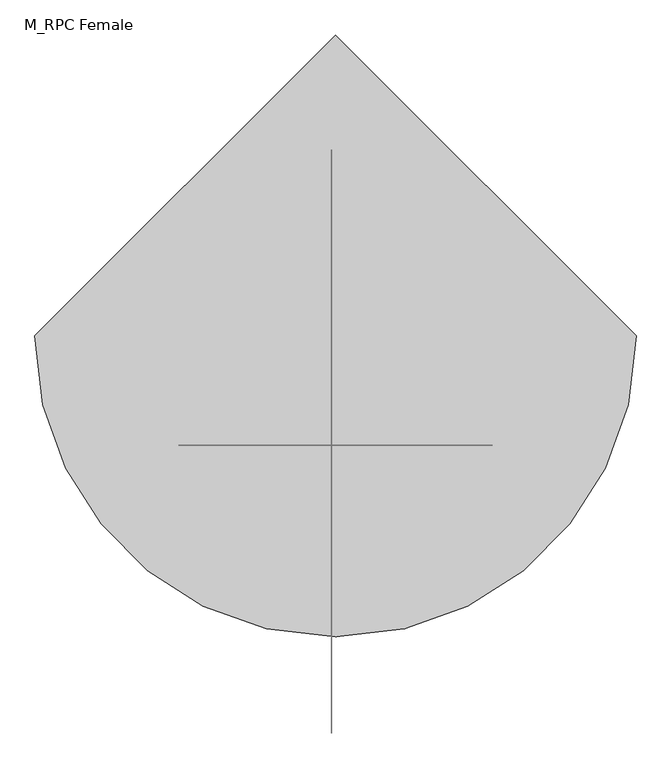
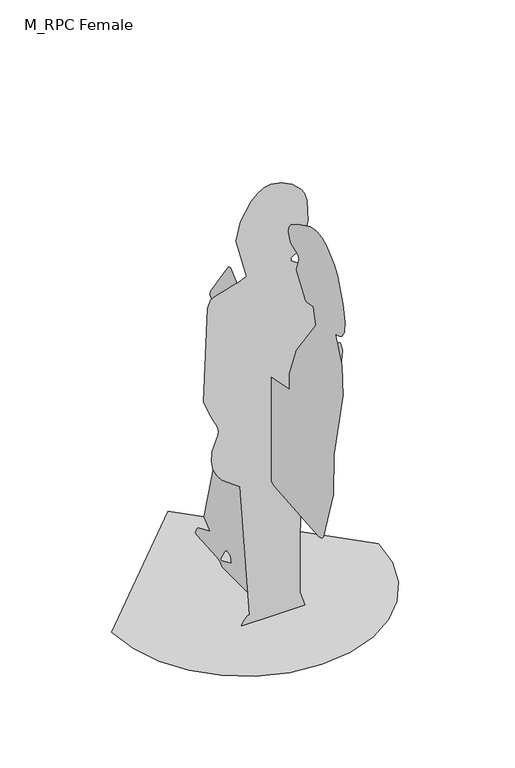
"""IFC4 building model written with IfcOpenShell, lengths in millimetres: proxy geometry, M_RPC Female : Cynthia."""

from ifc_helpers import new_model, si_unit, origin, place, context, project, spatial, triangles, source, transform, mapped, element, save


def m_rpc_female_c3b5a3e1(model_context):
    return source(origin(), model_context, "Body", "Tessellation", [
        triangles([(-437.3060472, 0.0, 2.93e-05), (-425.7451249, -100.2016327, 2.93e-05), (-392.8196637, -192.220807, 2.93e-05), (-341.1660942, -273.421065, 2.93e-05), (-273.4210832, -341.1661669, 2.93e-05), (-192.2207525, -392.8196274, 2.93e-05), (-100.2015873, -425.7450522, 2.93e-05), (1.91e-05, -437.3060472, 2.93e-05), (100.2016418, -425.7451249, 2.93e-05), (192.2208252, -392.8196637, 2.93e-05), (273.4210832, -341.1660942, 2.93e-05), (341.1662395, -273.4210832, 2.93e-05), (392.8196274, -192.2207344, 2.93e-05), (425.7450522, -100.2015691, 2.93e-05), (437.3060472, 3.36e-05, 2.93e-05), (-5.73e-05, 437.3060835, 2.93e-05), (-5.5814595, 72.2469164, 69.4963894), (-5.5814595, 67.0311828, 46.0256926), (-5.5814618, 124.4040072, 19.9471473), (-5.5814618, 129.6197135, 25.1628355), (-5.5814606, 107.6002908, 62.2269748), (-5.5814595, 95.7176132, 74.7120821), (-5.5814595, -28.6037251, 4.4e-06), (-5.5814589, -39.8908927, 35.5942709), (-5.5814589, -42.4985824, 37.2668455), (-5.5814583, -45.6386024, 39.1828236), (-5.5814583, -48.9915681, 41.1595925), (-5.5814583, -52.2381586, 43.0148617), (-5.5814583, -55.0589485, 44.5657618), (-5.5814583, -57.1346439, 45.630268), (-5.5814583, -58.1458422, 46.0256972), (-5.5814595, -58.1459239, 5.3e-06), (-5.5814589, -108.9534877, 6.8e-06), (-5.5814578, -116.5758876, 29.8220396), (-5.5814544, -109.3237594, 163.617066), (-5.5814447, -45.4571863, 488.7460396), (-5.5814447, -47.7144613, 510.22398), (-5.5814447, -52.930154, 512.8317787), (-5.5814442, -176.693648, 461.1355883), (-5.5814407, -431.0103195, 441.4519423), (-5.5814407, -446.7163739, 445.0275962), (-5.5814402, -456.1588572, 455.8254473), (-5.5814334, -511.6812675, 636.0533998), (-5.5814294, -514.5206291, 776.2252218), (-5.581422, -566.7675127, 1012.4535353), (-5.5814192, -561.4620226, 1112.6385538), (-5.5814163, -522.3441341, 1198.6978357), (-5.5814163, -544.766203, 1204.597403), (-5.5814158, -561.2101121, 1214.9823069), (-5.5814152, -573.9146782, 1236.2579704), (-5.5814135, -577.4590839, 1272.8749214), (-5.5814124, -566.4222939, 1329.2833969), (-5.5814107, -535.3834182, 1409.9341427), (-5.5814101, -516.7875329, 1433.7646648), (-5.5814095, -472.5757693, 1474.3213463), (-5.5814095, -445.9834971, 1486.7823589), (-5.5814101, -415.7492961, 1491.1889214), (-5.5814107, -381.3848602, 1485.4078789), (-5.5814124, -308.1104447, 1450.1712215), (-5.5814135, -271.6909563, 1426.3745636), (-5.5814141, -259.9824413, 1410.5522736), (-5.5814152, -256.5010404, 1391.3537361), (-5.5814158, -264.1664701, 1368.2083466), (-5.5814158, -270.5527808, 1361.5173306), (-5.5814158, -307.4895524, 1345.9739479), (-5.5814158, -313.689719, 1341.0972107), (-5.5814158, -316.3235335, 1334.3062008), (-5.5814163, -314.5106718, 1321.5905525), (-5.5814175, -303.2843222, 1289.972715), (-5.5814175, -303.9330653, 1281.3193188), (-5.5814186, -344.8554039, 1227.4574902), (-5.5814192, -350.225752, 1216.9527534), (-5.5814192, -354.0102593, 1213.1380154), (-5.5814192, -360.9106739, 1211.8318451), (-5.581418, -397.1671454, 1216.9527534), (-5.5814197, -412.8142282, 1162.1877823), (-5.5814254, -300.7219422, 1007.465613), (-5.5814294, -262.9223781, 903.7025425), (-5.5814311, -261.5586532, 849.245256), (-5.5814334, -151.2455011, 828.1027239), (-5.5814334, -131.1658673, 828.382358), (-5.5814322, -146.9134072, 873.4852736), (-5.5814322, -146.8129955, 875.3236788), (-5.5814322, -136.528476, 880.5995195), (-5.5814294, 66.2908937, 1062.7625284), (-5.5814294, 72.9542315, 1068.1179428), (-5.58143, 85.3176393, 1063.7725685), (-5.5814356, 186.9121194, 916.7362673), (-5.5814362, 189.6004001, 904.0100819), (-5.5814373, 74.8547605, 802.3037899), (-5.5814385, 53.5232047, 768.5295433), (-5.5814385, 40.9526375, 757.9702314), (-5.5814385, 7.0502453, 750.1467264), (-5.5814396, -30.7395867, 681.3431499), (-5.5814396, -32.0672991, 677.1266922), (-5.5814402, -2.7970188, 673.1422697), (-5.5814413, 74.8547605, 666.6952068), (-5.5814606, 223.5024732, 113.8299342), (-5.5814606, 192.3028696, 86.4272827), (-5.5814606, 189.6004001, 82.5356507), (-5.5814629, 257.4046916, 53.8492703), (-5.5814629, 261.0574302, 50.6335736), (-5.5814635, 266.9933869, 41.9573681), (-5.5814635, 270.402463, 33.1798516), (-5.5814635, 270.8967278, 29.8373366), (-5.5814635, 270.4438667, 27.7706795), (-5.5814635, 262.2121017, 24.672413), (-5.5814623, 148.399036, 17.7234889), (-5.5814623, 129.6197135, 12.1235673), (-5.5814623, 119.228015, 0.0), (-103.2161744, -158.8626324, 3.1383159), (-93.5649829, -158.8626324, 19.2429933), (-88.6212531, -158.8626324, 24.4594445), (-82.9718341, -158.8626324, 28.4095327), (-76.7114059, -158.8626324, 30.3785123), (-108.0056803, -158.8626688, 484.1452303), (-166.5179246, -158.8626688, 527.9972775), (-183.6323596, -158.8626688, 549.7335234), (-196.1560501, -158.8626688, 575.2326937), (-202.051348, -158.8626688, 604.6170193), (-199.2806414, -158.8626688, 638.0087311), (-180.7338447, -158.8626688, 688.9253906), (-179.5105545, -158.8626688, 700.1741953), (-181.0256691, -158.8626688, 711.0286926), (-186.0299967, -158.8626688, 724.8032879), (-192.7432497, -158.8626688, 739.7140783), (-208.556347, -158.8626688, 771.7153954), (-227.9670263, -158.8626688, 820.5585623), (-215.5927998, -158.8627051, 1139.719677), (-204.4963295, -158.8627051, 1164.795472), (-195.7042972, -158.8627051, 1170.2251551), (-178.3999392, -158.8627051, 1176.5906822), (-156.0961225, -158.8627051, 1183.4371393), (-132.3056233, -158.8627051, 1190.3085222), (-110.5413813, -158.8627051, 1196.7500622), (-94.3161544, -158.8627051, 1202.3061911), (-87.1428368, -158.8627051, 1206.5211954), (-121.0449553, -158.8627051, 1339.5217255), (-105.9598841, -158.8627233, 1402.4776211), (-72.2006802, -158.8627233, 1459.3937691), (-51.1399244, -158.8627233, 1480.6096252), (-28.7965753, -158.8627233, 1494.3423626), (-6.2993163, -158.8627233, 1498.6009689), (28.3786116, -158.8627233, 1491.3014145), (62.9444138, -158.8627233, 1473.3404469), (92.2084978, -158.8627233, 1445.5319698), (103.2306357, -158.8627233, 1428.1888424), (112.1217082, -158.8627233, 1400.9906479), (114.2135863, -158.8627051, 1329.2272957), (96.1615087, -158.8627051, 1258.9099308), (79.8726138, -158.8627051, 1233.5191841), (58.8970909, -158.8627051, 1219.5604431), (58.8970909, -158.8627051, 1209.1289577), (105.4403209, -158.8627051, 1177.1577988), (186.6819918, -158.8627051, 1146.5404089), (190.9102947, -158.8627051, 1130.2535397), (197.4606216, -158.8627051, 874.561952), (217.1153449, -158.8627051, 870.6129925), (219.4355885, -158.8627051, 869.5271576), (221.3550207, -158.8627051, 866.9867603), (227.9670444, -158.8626688, 839.7671282), (217.976248, -158.8626688, 726.675848), (216.7788284, -158.8626688, 725.5374001), (198.4189752, -158.8626688, 721.3537165), (197.1134226, -158.8626688, 721.4601053), (188.2935758, -158.8626688, 736.0854481), (176.2505791, -158.8626688, 750.1465811), (172.5435924, -158.8626688, 744.3788372), (169.4577161, -158.8626688, 737.624235), (166.7655839, -158.8626688, 730.2871828), (164.2398296, -158.8626688, 722.7722345), (161.6531779, -158.8626688, 715.4839439), (158.7782626, -158.8626688, 708.8267195), (155.3877173, -158.8626688, 703.2051149), (164.598892, -158.8626688, 582.3868355), (159.7289131, -158.8626688, 557.9940293), (150.1720292, -158.8626688, 536.3024028), (143.4522449, -158.8626688, 528.6089407), (105.4337806, -158.8626688, 509.5450607), (96.8766176, -158.8626688, 503.2558007), (90.1913244, -158.8626688, 494.5766793), (88.7456459, -158.8626324, 49.410397), (105.4366693, -158.8626324, 7.4e-05), (-104.3910663, -158.8626324, 7.4e-05)], [[15, 16, 1], [14, 15, 1], [14, 1, 2], [13, 14, 2], [13, 2, 3], [13, 3, 4], [12, 13, 4], [11, 12, 4], [11, 4, 5], [11, 5, 6], [11, 6, 7], [11, 7, 8], [11, 8, 9], [11, 9, 10], [23, 17, 18], [110, 23, 18], [110, 18, 19], [109, 110, 19], [17, 23, 24], [31, 32, 33], [31, 33, 34], [109, 19, 20], [108, 109, 20], [88, 89, 90], [82, 83, 84], [85, 86, 87], [105, 106, 107], [104, 105, 107], [103, 104, 107], [102, 103, 107], [101, 102, 107], [100, 101, 107], [100, 107, 108], [100, 108, 20], [100, 20, 21], [100, 21, 22], [87, 88, 90], [85, 87, 90], [84, 85, 90], [84, 90, 91], [84, 91, 92], [84, 92, 93], [82, 84, 93], [81, 82, 93], [81, 93, 94], [80, 81, 94], [80, 94, 95], [99, 100, 22], [17, 24, 25], [17, 25, 26], [31, 34, 35], [30, 31, 35], [17, 26, 27], [17, 27, 28], [17, 28, 29], [29, 30, 35], [17, 29, 35], [22, 17, 35], [99, 22, 35], [98, 99, 35], [97, 98, 35], [97, 35, 36], [97, 36, 37], [96, 97, 37], [96, 37, 38], [95, 96, 38], [80, 95, 38], [80, 38, 39], [79, 80, 39], [79, 39, 40], [79, 40, 41], [79, 41, 42], [79, 42, 43], [79, 43, 44], [78, 79, 44], [77, 78, 44], [77, 44, 45], [77, 45, 46], [76, 77, 46], [76, 46, 47], [75, 76, 47], [72, 73, 74], [71, 72, 74], [61, 62, 63], [60, 61, 63], [60, 63, 64], [59, 60, 64], [59, 64, 65], [59, 65, 66], [58, 59, 66], [57, 58, 66], [56, 57, 66], [55, 56, 66], [54, 55, 66], [54, 66, 67], [53, 54, 67], [52, 53, 67], [52, 67, 68], [51, 52, 68], [50, 51, 68], [49, 50, 68], [48, 49, 68], [47, 48, 68], [75, 47, 68], [74, 75, 68], [71, 74, 68], [70, 71, 68], [69, 70, 68], [183, 184, 111], [183, 111, 112], [183, 112, 113], [183, 113, 114], [183, 114, 115], [182, 183, 115], [181, 182, 115], [181, 115, 116], [154, 155, 156], [164, 165, 166], [180, 181, 116], [163, 164, 166], [162, 163, 166], [162, 166, 167], [161, 162, 167], [160, 161, 167], [159, 160, 167], [158, 159, 167], [157, 158, 167], [180, 116, 117], [180, 117, 118], [180, 118, 119], [180, 119, 120], [180, 120, 121], [180, 121, 122], [179, 180, 122], [179, 122, 123], [178, 179, 123], [177, 178, 123], [176, 177, 123], [175, 176, 123], [174, 175, 123], [174, 123, 124], [174, 124, 125], [173, 174, 125], [172, 173, 125], [171, 172, 125], [170, 171, 125], [169, 170, 125], [169, 125, 126], [168, 169, 126], [168, 126, 127], [167, 168, 127], [157, 167, 127], [157, 127, 128], [156, 157, 128], [154, 156, 128], [153, 154, 128], [153, 128, 129], [153, 129, 130], [153, 130, 131], [153, 131, 132], [153, 132, 133], [153, 133, 134], [153, 134, 135], [153, 135, 136], [153, 136, 137], [152, 153, 137], [151, 152, 137], [150, 151, 137], [149, 150, 137], [149, 137, 138], [149, 138, 139], [148, 149, 139], [147, 148, 139], [146, 147, 139], [146, 139, 140], [145, 146, 140], [145, 140, 141], [144, 145, 141], [144, 141, 142], [144, 142, 143]], closed=False),
    ])


if __name__ == "__main__":
    model = new_model("IFC4")
    model_context = context("Model", 3, world=origin())
    ifc_project = project(units=[si_unit("LENGTHUNIT", "METRE", prefix="MILLI")], contexts=[model_context])
    site = spatial("IfcSite", under=ifc_project)
    building = spatial("IfcBuilding", under=site)
    placement = place(None, origin())
    m_rpc_female_shape = m_rpc_female_c3b5a3e1(model_context)
    element("IfcBuildingElementProxy", 1, Name="M_RPC Female : Cynthia", ObjectType="M_RPC Female : Cynthia", at=placement, inside=building, context=model_context, shape_type="MappedRepresentation", body=[
        mapped(m_rpc_female_shape, transform((0.0, 0.0, 0.0), x_axis=(1.0, 0.0, 0.0), y_axis=(0.0, 1.0, 0.0), z_axis=(0.0, 0.0, 1.0))),
    ])
    save(model, "model.ifc")
